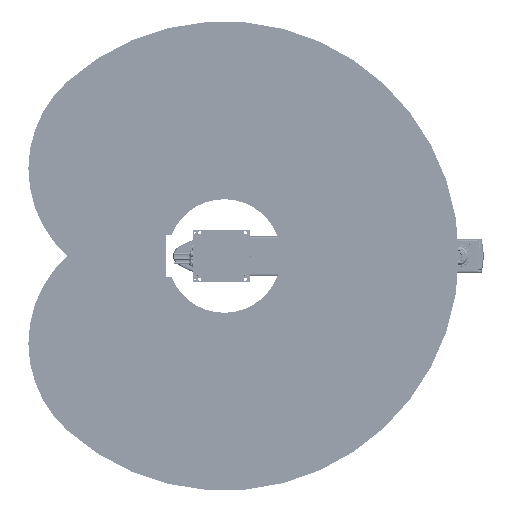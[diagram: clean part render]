
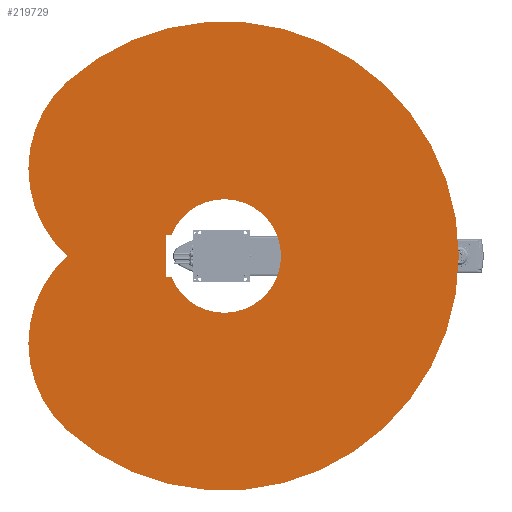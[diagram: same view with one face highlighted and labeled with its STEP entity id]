
A CAD part, front view. The second image highlights one B-rep face of the part: STEP entity #219729.
In plain terms, the highlighted planar face has unit normal (0, -1, 0).
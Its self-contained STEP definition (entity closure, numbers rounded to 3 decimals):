
#1820 = CARTESIAN_POINT ( 'NONE',  ( 371.572, 0., 334.565 ) ) ;
#4879 = EDGE_CURVE ( 'NONE', #142771, #63524, #150060, .T. ) ;
#5068 = DIRECTION ( 'NONE',  ( 0., 1., 0. ) ) ;
#15405 = CARTESIAN_POINT ( 'NONE',  ( 0., 0., 669.131 ) ) ;
#15667 = DIRECTION ( 'NONE',  ( 0., 1., 0. ) ) ;
#25349 = EDGE_LOOP ( 'NONE', ( #194539, #80136, #114896, #161490, #126323 ) ) ;
#28675 = DIRECTION ( 'NONE',  ( 0., 0., 1. ) ) ;
#30389 = VERTEX_POINT ( 'NONE', #32513 ) ;
#32513 = CARTESIAN_POINT ( 'NONE',  ( 0., 0., -242. ) ) ;
#34657 = DIRECTION ( 'NONE',  ( 0., 0., 1. ) ) ;
#35181 = CARTESIAN_POINT ( 'NONE',  ( 90., 0., 250. ) ) ;
#38742 = CARTESIAN_POINT ( 'NONE',  ( 0., 0., 250. ) ) ;
#57519 = AXIS2_PLACEMENT_3D ( 'NONE', #204665, #5068, #235086 ) ;
#60092 = ORIENTED_EDGE ( 'NONE', *, *, #115361, .F. ) ;
#61525 = VERTEX_POINT ( 'NONE', #107914 ) ;
#62361 = VECTOR ( 'NONE', #258668, 1000. ) ;
#63524 = VERTEX_POINT ( 'NONE', #174279 ) ;
#68570 = ORIENTED_EDGE ( 'NONE', *, *, #262624, .F. ) ;
#69507 = VECTOR ( 'NONE', #98966, 1000. ) ;
#80136 = ORIENTED_EDGE ( 'NONE', *, *, #86166, .T. ) ;
#80152 = AXIS2_PLACEMENT_3D ( 'NONE', #231117, #271917, #28675 ) ;
#81553 = DIRECTION ( 'NONE',  ( 0., 1., 0. ) ) ;
#86166 = EDGE_CURVE ( 'NONE', #30389, #61525, #252738, .T. ) ;
#89114 = VERTEX_POINT ( 'NONE', #242559 ) ;
#89793 = ORIENTED_EDGE ( 'NONE', *, *, #4879, .T. ) ;
#91667 = EDGE_CURVE ( 'NONE', #149652, #121325, #210708, .T. ) ;
#98966 = DIRECTION ( 'NONE',  ( 0., 0., 1. ) ) ;
#98973 = LINE ( 'NONE', #100404, #122483 ) ;
#100404 = CARTESIAN_POINT ( 'NONE',  ( -90., 0., 0. ) ) ;
#101094 = AXIS2_PLACEMENT_3D ( 'NONE', #233159, #81553, #281183 ) ;
#107007 = DIRECTION ( 'NONE',  ( 0., -1., 0. ) ) ;
#107914 = CARTESIAN_POINT ( 'NONE',  ( -90., 0., 224.642 ) ) ;
#109050 = EDGE_LOOP ( 'NONE', ( #89793, #68570, #148529, #60092 ) ) ;
#114896 = ORIENTED_EDGE ( 'NONE', *, *, #169996, .F. ) ;
#115361 = EDGE_CURVE ( 'NONE', #142771, #189823, #128565, .T. ) ;
#120940 = CARTESIAN_POINT ( 'NONE',  ( 90., 0., 224.642 ) ) ;
#121325 = VERTEX_POINT ( 'NONE', #251860 ) ;
#122483 = VECTOR ( 'NONE', #189315, 1000. ) ;
#126323 = ORIENTED_EDGE ( 'NONE', *, *, #208180, .F. ) ;
#126342 = CARTESIAN_POINT ( 'NONE',  ( 0., 0., 0. ) ) ;
#127412 = DIRECTION ( 'NONE',  ( 0., 0., 1. ) ) ;
#128064 = CIRCLE ( 'NONE', #262865, 242. ) ;
#128565 = CIRCLE ( 'NONE', #193720, 500. ) ;
#131511 = DIRECTION ( 'NONE',  ( 0., 0., 1. ) ) ;
#141749 = EDGE_CURVE ( 'NONE', #278345, #30389, #128064, .T. ) ;
#142706 = CARTESIAN_POINT ( 'NONE',  ( 90., 0., 0. ) ) ;
#142771 = VERTEX_POINT ( 'NONE', #15405 ) ;
#148529 = ORIENTED_EDGE ( 'NONE', *, *, #181988, .F. ) ;
#149652 = VERTEX_POINT ( 'NONE', #35181 ) ;
#150060 = CIRCLE ( 'NONE', #173377, 500. ) ;
#156877 = CIRCLE ( 'NONE', #101094, 1000. ) ;
#161490 = ORIENTED_EDGE ( 'NONE', *, *, #91667, .F. ) ;
#165620 = DIRECTION ( 'NONE',  ( 0., 0., 1. ) ) ;
#167239 = FACE_OUTER_BOUND ( 'NONE', #109050, .T. ) ;
#169996 = EDGE_CURVE ( 'NONE', #121325, #61525, #98973, .T. ) ;
#170067 = FACE_BOUND ( 'NONE', #25349, .T. ) ;
#173377 = AXIS2_PLACEMENT_3D ( 'NONE', #222050, #107007, #127412 ) ;
#174279 = CARTESIAN_POINT ( 'NONE',  ( -743.145, 0., 669.131 ) ) ;
#181988 = EDGE_CURVE ( 'NONE', #189823, #89114, #224494, .T. ) ;
#186432 = LINE ( 'NONE', #142706, #69507 ) ;
#189315 = DIRECTION ( 'NONE',  ( 0., 0., -1. ) ) ;
#189823 = VERTEX_POINT ( 'NONE', #230258 ) ;
#193720 = AXIS2_PLACEMENT_3D ( 'NONE', #1820, #268357, #131511 ) ;
#194539 = ORIENTED_EDGE ( 'NONE', *, *, #141749, .T. ) ;
#201522 = AXIS2_PLACEMENT_3D ( 'NONE', #126342, #15667, #34657 ) ;
#204665 = CARTESIAN_POINT ( 'NONE',  ( 0., 0., 0. ) ) ;
#208180 = EDGE_CURVE ( 'NONE', #278345, #149652, #186432, .T. ) ;
#210708 = LINE ( 'NONE', #38742, #62361 ) ;
#219729 = ADVANCED_FACE ( 'NONE', ( #170067, #167239 ), #232784, .F. ) ;
#222050 = CARTESIAN_POINT ( 'NONE',  ( -371.572, 0., 334.565 ) ) ;
#224494 = CIRCLE ( 'NONE', #80152, 1000. ) ;
#230258 = CARTESIAN_POINT ( 'NONE',  ( 743.145, 0., 669.131 ) ) ;
#231117 = CARTESIAN_POINT ( 'NONE',  ( 0., 0., 0. ) ) ;
#232784 = PLANE ( 'NONE',  #201522 ) ;
#233159 = CARTESIAN_POINT ( 'NONE',  ( 0., 0., 0. ) ) ;
#235086 = DIRECTION ( 'NONE',  ( 0., 0., 1. ) ) ;
#235482 = CARTESIAN_POINT ( 'NONE',  ( 0., 0., 0. ) ) ;
#242559 = CARTESIAN_POINT ( 'NONE',  ( 0., 0., -1000. ) ) ;
#251860 = CARTESIAN_POINT ( 'NONE',  ( -90., 0., 250. ) ) ;
#252738 = CIRCLE ( 'NONE', #57519, 242. ) ;
#258668 = DIRECTION ( 'NONE',  ( -1., 0., 0. ) ) ;
#262624 = EDGE_CURVE ( 'NONE', #89114, #63524, #156877, .T. ) ;
#262865 = AXIS2_PLACEMENT_3D ( 'NONE', #235482, #276336, #165620 ) ;
#268357 = DIRECTION ( 'NONE',  ( 0., 1., 0. ) ) ;
#271917 = DIRECTION ( 'NONE',  ( 0., 1., 0. ) ) ;
#276336 = DIRECTION ( 'NONE',  ( 0., 1., 0. ) ) ;
#278345 = VERTEX_POINT ( 'NONE', #120940 ) ;
#281183 = DIRECTION ( 'NONE',  ( 0., 0., 1. ) ) ;
